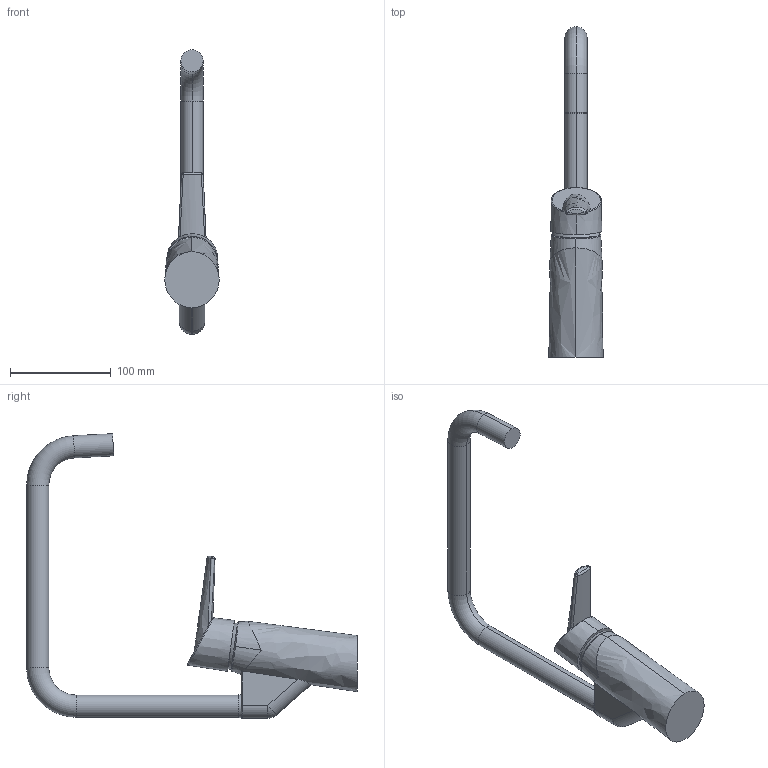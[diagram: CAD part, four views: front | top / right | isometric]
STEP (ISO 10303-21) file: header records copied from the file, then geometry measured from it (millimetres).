
FILE_DESCRIPTION (( 'STEP AP203' ), '1' );
FILE_NAME ('2733F(2013).STEP', '2018-05-03T06:59:06', ( '' ), ( '' ), 'SwSTEP 2.0', 'SolidWorks 2016', '' );
FILE_SCHEMA (( 'CONFIG_CONTROL_DESIGN' ));
Length unit declared in the file: millimetre
Products named in the file (1): 2733F(2013)
Bounding box: 53.79 x 327.98 x 282.34 mm (x, y, z)
Volume: 596118.9 mm3; surface area: 74408.8 mm2
Topology: 1 solids, 1 shells, 64 faces, 148 edges, 87 vertices
Faces by surface type: bspline 18, cylinder 16, plane 13, torus 8, sphere 7, cone 2
Entity records: 5676 total; most frequent: CARTESIAN_POINT 4301, ORIENTED_EDGE 288, DIRECTION 244, EDGE_CURVE 144, AXIS2_PLACEMENT_3D 109, VERTEX_POINT 86, EDGE_LOOP 68, FACE_OUTER_BOUND 64
